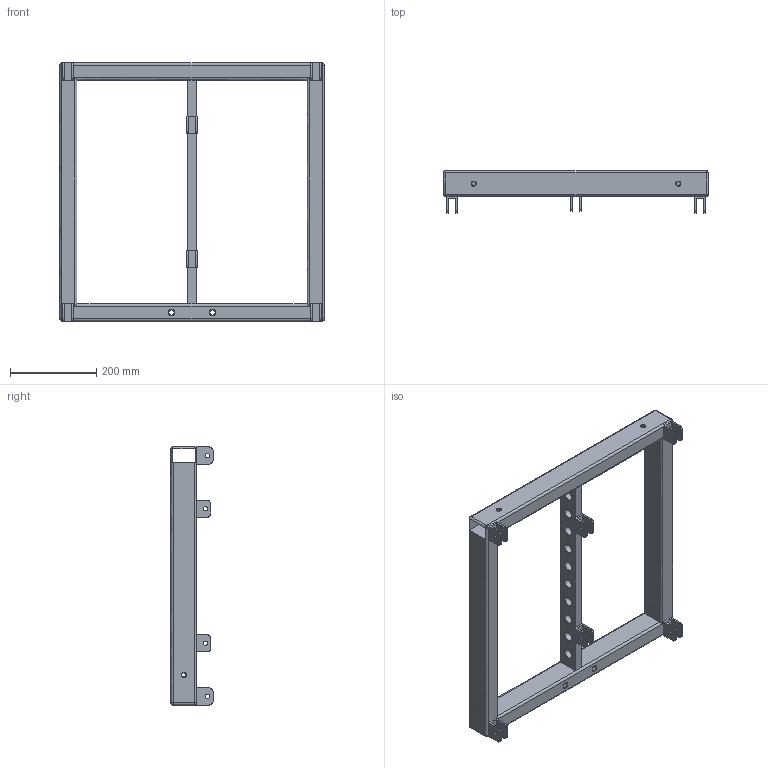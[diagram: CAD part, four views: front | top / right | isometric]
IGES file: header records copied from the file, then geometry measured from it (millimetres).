
Start section: SolidWorks IGES file using analytic representation for surfaces
Global section: file name: C:\Dokumente und Einstellungen\PC_Fabian\Desktop\Galeo_und_Co\Seeburg_Galeo-Cradle.IGS; native system: SolidWorks 2009; preprocessor: SolidWorks 2009; author: PC_Fabian; date: 121017.105953; units: millimetre
Bounding box: 615 x 98 x 600.01 mm (x, y, z)
Surface area: 843229.1 mm2 (no closed solid volume)
Topology: 0 solids, 0 shells, 277 faces, 4055 edges, 4051 vertices
Faces by surface type: revolution 172, bspline 105
